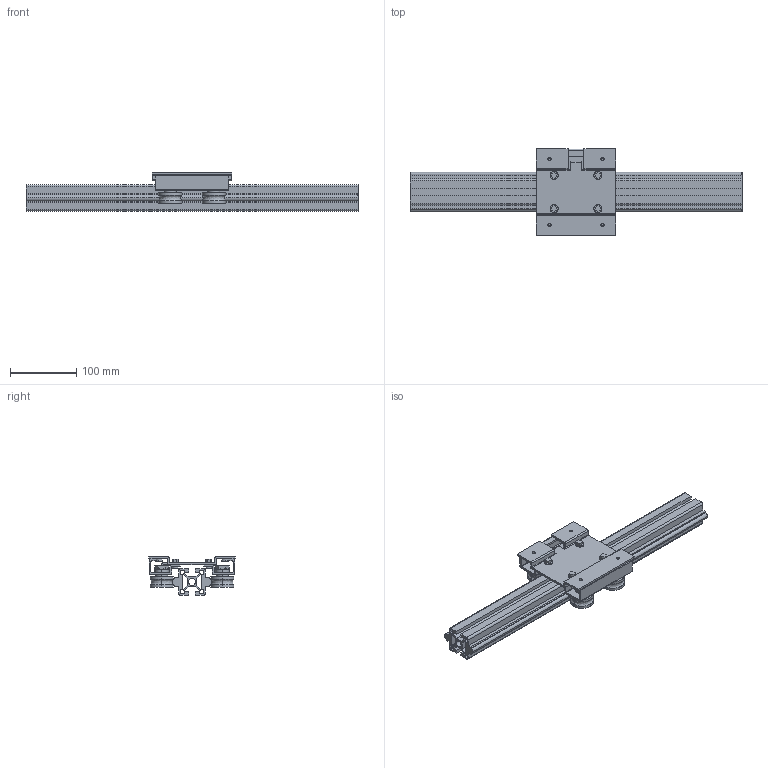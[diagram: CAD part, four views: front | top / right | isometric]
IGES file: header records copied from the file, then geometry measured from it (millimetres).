
Global section: file name: No Iges File Name specified; native system: AutoDesk Inventor R11.0; preprocessor: AutoDesk Inventor Iges Exporter R11.0; author: No Author specified; organization: No Organization specified; date: 20170802.092449; units: millimetre
Bounding box: 500 x 130 x 58 mm (x, y, z)
Surface area: 332343 mm2 (no closed solid volume)
Topology: 0 solids, 0 shells, 436 faces, 2674 edges, 2674 vertices
Faces by surface type: bspline 436
